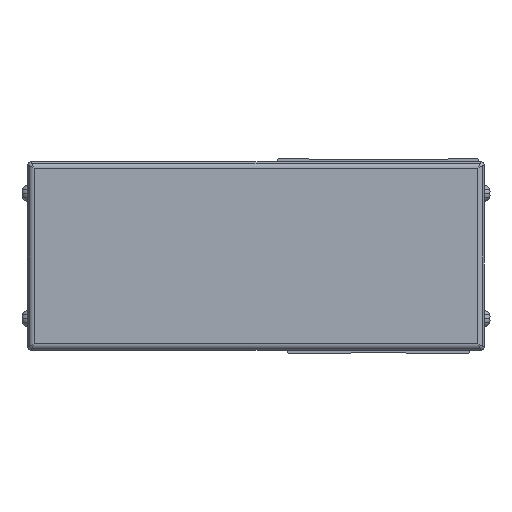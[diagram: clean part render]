
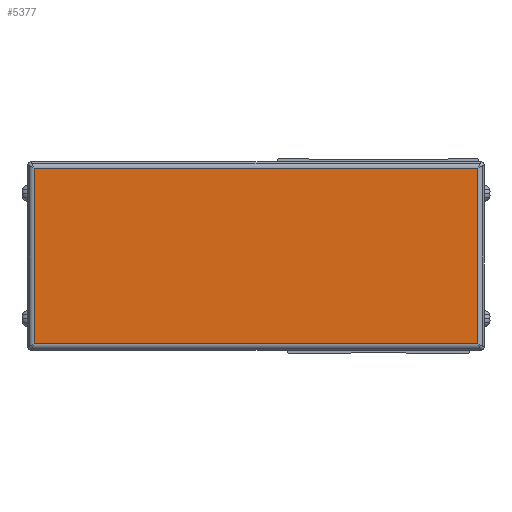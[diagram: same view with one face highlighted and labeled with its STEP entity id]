
A CAD part, front view. The second image highlights one B-rep face of the part: STEP entity #5377.
In plain terms, the highlighted planar face has unit normal (0, -1, 0).
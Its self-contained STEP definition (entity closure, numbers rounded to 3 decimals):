
#5377=ADVANCED_FACE('',(#10887),#10888,.F.);
#10887=FACE_OUTER_BOUND('',#17675,.T.);
#10888=PLANE('',#17676);
#17675=EDGE_LOOP('',(#32860,#32861,#32862,#32863));
#17676=AXIS2_PLACEMENT_3D('',#32864,#32865,#32866);
#32860=ORIENTED_EDGE('',*,*,#40974,.T.);
#32861=ORIENTED_EDGE('',*,*,#41023,.T.);
#32862=ORIENTED_EDGE('',*,*,#41044,.T.);
#32863=ORIENTED_EDGE('',*,*,#41067,.T.);
#32864=CARTESIAN_POINT('',(261.,-94.,-4.));
#32865=DIRECTION('',(0.,1.0,0.));
#32866=DIRECTION('',(0.,0.,1.0));
#40974=EDGE_CURVE('',#50412,#50428,#50452,.T.);
#41023=EDGE_CURVE('',#50428,#50496,#50504,.T.);
#41044=EDGE_CURVE('',#50496,#50517,#50527,.T.);
#41067=EDGE_CURVE('',#50517,#50412,#50550,.T.);
#50412=VERTEX_POINT('',#63749);
#50428=VERTEX_POINT('',#63768);
#50452=LINE('',#63799,#63800);
#50496=VERTEX_POINT('',#63858);
#50504=LINE('',#63866,#63867);
#50517=VERTEX_POINT('',#63888);
#50527=LINE('',#63898,#63899);
#50550=LINE('',#63930,#63931);
#63749=CARTESIAN_POINT('',(331.7,-94.,24.));
#63768=CARTESIAN_POINT('',(190.3,-94.,24.));
#63799=CARTESIAN_POINT('',(261.,-94.,24.));
#63800=VECTOR('',#71460,10.0);
#63858=CARTESIAN_POINT('',(190.3,-94.,-32.));
#63866=CARTESIAN_POINT('',(190.3,-94.,-4.));
#63867=VECTOR('',#71496,10.0);
#63888=CARTESIAN_POINT('',(331.7,-94.,-32.));
#63898=CARTESIAN_POINT('',(261.,-94.,-32.));
#63899=VECTOR('',#71514,10.0);
#63930=CARTESIAN_POINT('',(331.7,-94.,-4.));
#63931=VECTOR('',#71526,10.0);
#71460=DIRECTION('',(-1.0,0.,0.));
#71496=DIRECTION('',(0.,0.,-1.0));
#71514=DIRECTION('',(1.0,0.,0.));
#71526=DIRECTION('',(0.,0.,1.0));
